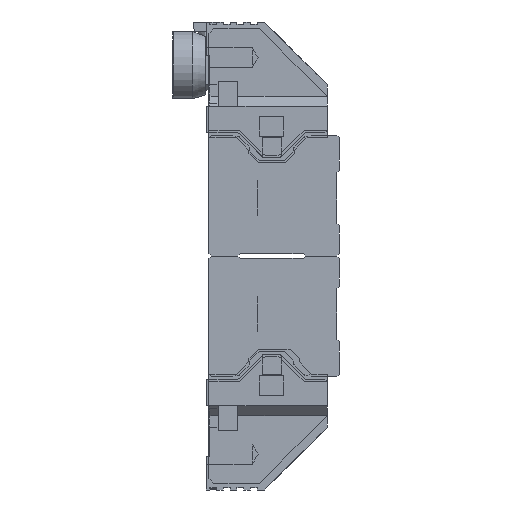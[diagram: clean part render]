
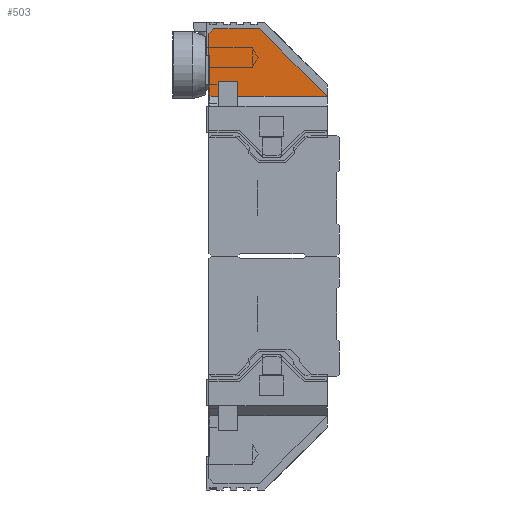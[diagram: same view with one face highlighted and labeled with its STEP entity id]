
A CAD part, left-side view. The second image highlights one B-rep face of the part: STEP entity #503.
In plain terms, the highlighted planar face has unit normal (-1, 0, 0).
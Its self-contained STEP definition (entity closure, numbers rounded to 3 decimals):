
#503 = ADVANCED_FACE( '', ( #1920 ), #1921, .T. );
#1920 = FACE_OUTER_BOUND( '', #4278, .T. );
#1921 = PLANE( '', #4279 );
#4278 = EDGE_LOOP( '', ( #7389, #7390, #7391, #7392, #7393, #7394, #7395, #7396, #7397 ) );
#4279 = AXIS2_PLACEMENT_3D( '', #7398, #7399, #7400 );
#7389 = ORIENTED_EDGE( '', *, *, #12105, .F. );
#7390 = ORIENTED_EDGE( '', *, *, #12097, .T. );
#7391 = ORIENTED_EDGE( '', *, *, #12106, .T. );
#7392 = ORIENTED_EDGE( '', *, *, #12103, .T. );
#7393 = ORIENTED_EDGE( '', *, *, #12107, .F. );
#7394 = ORIENTED_EDGE( '', *, *, #12108, .F. );
#7395 = ORIENTED_EDGE( '', *, *, #12109, .F. );
#7396 = ORIENTED_EDGE( '', *, *, #12110, .F. );
#7397 = ORIENTED_EDGE( '', *, *, #12099, .T. );
#7398 = CARTESIAN_POINT( '', ( -52., 19.25, 53. ) );
#7399 = DIRECTION( '', ( -1., 0., 0. ) );
#7400 = DIRECTION( '', ( 0., 0., 1. ) );
#12097 = EDGE_CURVE( '', #14332, #14334, #14336, .T. );
#12099 = EDGE_CURVE( '', #14339, #14337, #14340, .T. );
#12103 = EDGE_CURVE( '', #14347, #14345, #14348, .T. );
#12105 = EDGE_CURVE( '', #14332, #14337, #14350, .T. );
#12106 = EDGE_CURVE( '', #14334, #14347, #14351, .T. );
#12107 = EDGE_CURVE( '', #14352, #14345, #14353, .T. );
#12108 = EDGE_CURVE( '', #14354, #14352, #14355, .T. );
#12109 = EDGE_CURVE( '', #14356, #14354, #14357, .T. );
#12110 = EDGE_CURVE( '', #14339, #14356, #14358, .T. );
#14332 = VERTEX_POINT( '', #17518 );
#14334 = VERTEX_POINT( '', #17521 );
#14336 = LINE( '', #17524, #17525 );
#14337 = VERTEX_POINT( '', #17526 );
#14339 = VERTEX_POINT( '', #17529 );
#14340 = LINE( '', #17530, #17531 );
#14345 = VERTEX_POINT( '', #17538 );
#14347 = VERTEX_POINT( '', #17541 );
#14348 = LINE( '', #17542, #17543 );
#14350 = LINE( '', #17546, #17547 );
#14351 = LINE( '', #17548, #17549 );
#14352 = VERTEX_POINT( '', #17550 );
#14353 = LINE( '', #17551, #17552 );
#14354 = VERTEX_POINT( '', #17553 );
#14355 = LINE( '', #17554, #17555 );
#14356 = VERTEX_POINT( '', #17556 );
#14357 = LINE( '', #17557, #17558 );
#14358 = LINE( '', #17559, #17560 );
#17518 = CARTESIAN_POINT( '', ( -52., 11.5, 22.5 ) );
#17521 = CARTESIAN_POINT( '', ( -52., 7.5, 22.5 ) );
#17524 = CARTESIAN_POINT( '', ( -52., 19.25, 22.5 ) );
#17525 = VECTOR( '', #21734, 1000. );
#17526 = CARTESIAN_POINT( '', ( -52., 11.5, 19.5 ) );
#17529 = CARTESIAN_POINT( '', ( -52., 13.5, 19.5 ) );
#17530 = CARTESIAN_POINT( '', ( -52., 19.25, 19.5 ) );
#17531 = VECTOR( '', #21736, 1000. );
#17538 = CARTESIAN_POINT( '', ( -52., -11., 19.5 ) );
#17541 = CARTESIAN_POINT( '', ( -52., 7.5, 19.5 ) );
#17542 = CARTESIAN_POINT( '', ( -52., 19.25, 19.5 ) );
#17543 = VECTOR( '', #21740, 1000. );
#17546 = CARTESIAN_POINT( '', ( -52., 11.5, 53. ) );
#17547 = VECTOR( '', #21742, 1000. );
#17548 = CARTESIAN_POINT( '', ( -52., 7.5, 53. ) );
#17549 = VECTOR( '', #21743, 1000. );
#17550 = CARTESIAN_POINT( '', ( -52., 3., 33.5 ) );
#17551 = CARTESIAN_POINT( '', ( -52., 3., 33.5 ) );
#17552 = VECTOR( '', #21744, 1000. );
#17553 = CARTESIAN_POINT( '', ( -52., 12.5, 33.5 ) );
#17554 = CARTESIAN_POINT( '', ( -52., 12.5, 33.5 ) );
#17555 = VECTOR( '', #21745, 1000. );
#17556 = CARTESIAN_POINT( '', ( -52., 13.5, 32.5 ) );
#17557 = CARTESIAN_POINT( '', ( -52., 13.5, 32.5 ) );
#17558 = VECTOR( '', #21746, 1000. );
#17559 = CARTESIAN_POINT( '', ( -52., 13.5, 12.5 ) );
#17560 = VECTOR( '', #21747, 1000. );
#21734 = DIRECTION( '', ( 0., -1., 0. ) );
#21736 = DIRECTION( '', ( 0., -1., 0. ) );
#21740 = DIRECTION( '', ( 0., -1., 0. ) );
#21742 = DIRECTION( '', ( 0., 0., -1. ) );
#21743 = DIRECTION( '', ( 0., 0., -1. ) );
#21744 = DIRECTION( '', ( 0., -0.707, -0.707 ) );
#21745 = DIRECTION( '', ( 0., -1., 0. ) );
#21746 = DIRECTION( '', ( 0., -0.707, 0.707 ) );
#21747 = DIRECTION( '', ( 0., 0., 1. ) );
